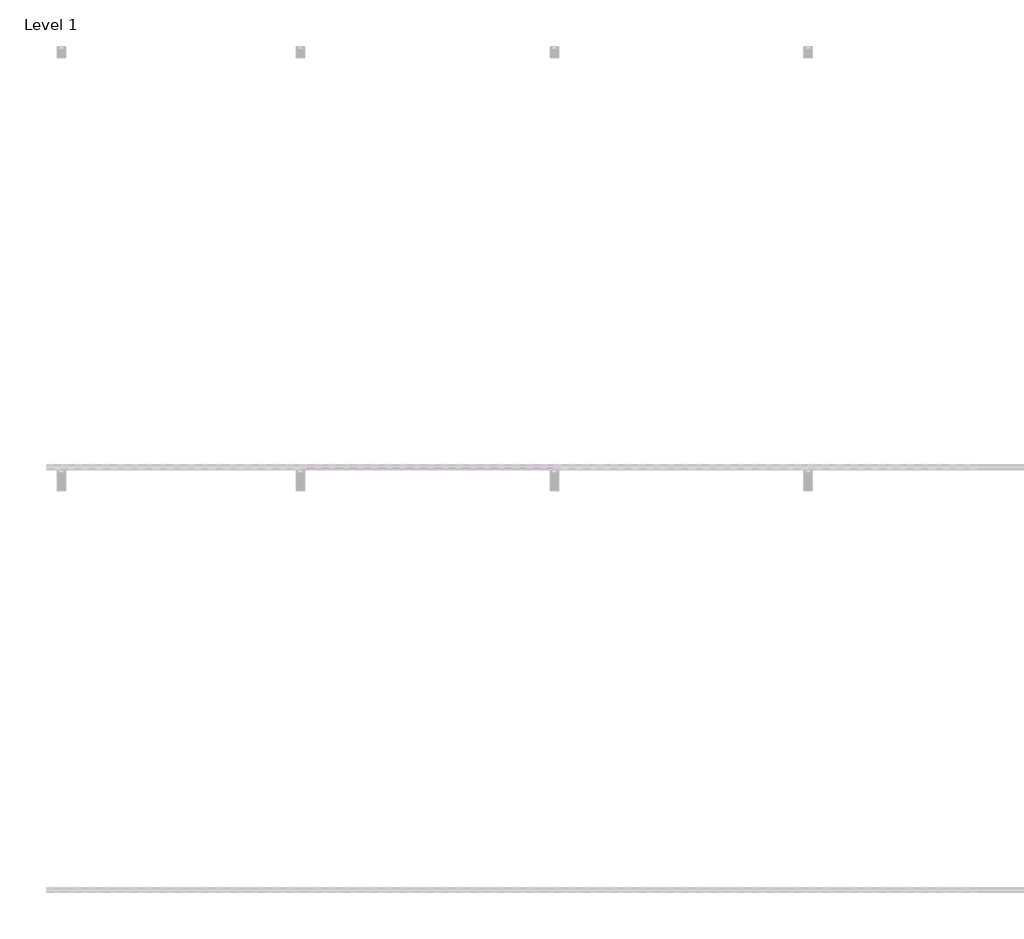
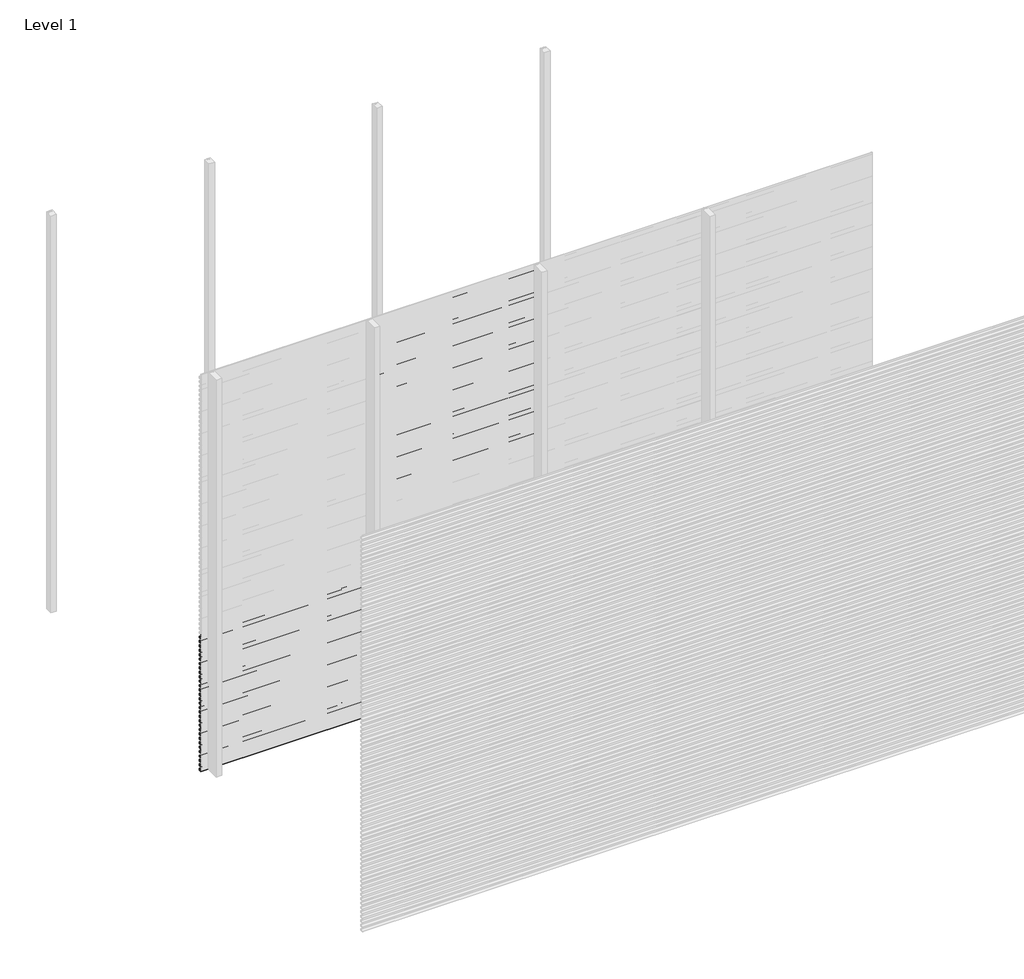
# One storey, part 28 of 77: 72 proxies.
"""IFC4 building model written with IfcOpenShell, lengths in millimetres."""

from ifc_helpers import new_model, si_unit, frame, origin, place, context, project, spatial, polyline, outline, extrude, element, save

model = new_model("IFC4")

# Units and contexts
model_context = context("Model", 3, world=origin())
ifc_project = project(units=[si_unit("LENGTHUNIT", "METRE", prefix="MILLI")], contexts=[model_context])

# Site, building, storey
site = spatial("IfcSite", under=ifc_project)
building = spatial("IfcBuilding", under=site)
storey = spatial("IfcBuildingStorey", under=building, Name="Level 1", Elevation=0.0)

# Proxies
placement = place(None, origin())
element("IfcBuildingElementProxy", 1, Name="Wall Sweeps", at=placement, inside=storey, context=model_context, shape_type="SweptSolid", body=[
    extrude(outline(polyline([(-35978.6, 1007.8359887), (-35998.0, 1019.0366691), (-35998.0, 1032.3), (-35997.0, 1032.3), (-35997.0, 1019.6191057), (-35977.6, 1008.4185105), (-35977.6, 994.8185105), (-35978.6, 996.3953129), (-35978.6, 1002.2032062), (-35995.9773817, 994.1), (-35996.4, 995.0063078), (-35978.6, 1003.3065841), (-35978.6, 1007.8359887)])), frame((0.0, 0.0, 0.0), z_axis=(1.0, 0.0, 0.0), x_axis=(0.0, 1.0, 0.0)), (0.0, 0.0, 1.0), 1200.0),
])
element("IfcBuildingElementProxy", 2, Name="Wall Sweeps", at=placement, inside=storey, context=model_context, shape_type="SweptSolid", body=[
    extrude(outline(polyline([(-35978.6, 974.5359887), (-35998.0, 985.7366691), (-35998.0, 999.0), (-35997.0, 999.0), (-35997.0, 986.3191057), (-35977.6, 975.1185105), (-35977.6, 961.5185105), (-35978.6, 963.0953129), (-35978.6, 968.9032062), (-35995.9773817, 960.8), (-35996.4, 961.7063078), (-35978.6, 970.0065841), (-35978.6, 974.5359887)])), frame((0.0, 0.0, 0.0), z_axis=(1.0, 0.0, 0.0), x_axis=(0.0, 1.0, 0.0)), (0.0, 0.0, 1.0), 1200.0),
])
element("IfcBuildingElementProxy", 3, Name="Wall Sweeps", at=placement, inside=storey, context=model_context, shape_type="SweptSolid", body=[
    extrude(outline(polyline([(-35978.6, 941.2359887), (-35998.0, 952.4366691), (-35998.0, 965.7), (-35997.0, 965.7), (-35997.0, 953.0191057), (-35977.6, 941.8185105), (-35977.6, 928.2185105), (-35978.6, 929.7953129), (-35978.6, 935.6032062), (-35995.9773817, 927.5), (-35996.4, 928.4063078), (-35978.6, 936.7065841), (-35978.6, 941.2359887)])), frame((0.0, 0.0, 0.0), z_axis=(1.0, 0.0, 0.0), x_axis=(0.0, 1.0, 0.0)), (0.0, 0.0, 1.0), 1200.0),
])
element("IfcBuildingElementProxy", 4, Name="Wall Sweeps", at=placement, inside=storey, context=model_context, shape_type="SweptSolid", body=[
    extrude(outline(polyline([(-35978.6, 907.9359887), (-35998.0, 919.1366691), (-35998.0, 932.4), (-35997.0, 932.4), (-35997.0, 919.7191057), (-35977.6, 908.5185105), (-35977.6, 894.9185105), (-35978.6, 896.4953129), (-35978.6, 902.3032062), (-35995.9773817, 894.2), (-35996.4, 895.1063078), (-35978.6, 903.4065841), (-35978.6, 907.9359887)])), frame((0.0, 0.0, 0.0), z_axis=(1.0, 0.0, 0.0), x_axis=(0.0, 1.0, 0.0)), (0.0, 0.0, 1.0), 1200.0),
])
element("IfcBuildingElementProxy", 5, Name="Wall Sweeps", at=placement, inside=storey, context=model_context, shape_type="SweptSolid", body=[
    extrude(outline(polyline([(-35978.6, 874.6359887), (-35998.0, 885.8366691), (-35998.0, 899.1), (-35997.0, 899.1), (-35997.0, 886.4191057), (-35977.6, 875.2185105), (-35977.6, 861.6185105), (-35978.6, 863.1953129), (-35978.6, 869.0032062), (-35995.9773817, 860.9), (-35996.4, 861.8063078), (-35978.6, 870.1065841), (-35978.6, 874.6359887)])), frame((0.0, 0.0, 0.0), z_axis=(1.0, 0.0, 0.0), x_axis=(0.0, 1.0, 0.0)), (0.0, 0.0, 1.0), 1200.0),
])
element("IfcBuildingElementProxy", 6, Name="Wall Sweeps", at=placement, inside=storey, context=model_context, shape_type="SweptSolid", body=[
    extrude(outline(polyline([(-35978.6, 841.3359887), (-35998.0, 852.5366691), (-35998.0, 865.8), (-35997.0, 865.8), (-35997.0, 853.1191057), (-35977.6, 841.9185105), (-35977.6, 828.3185105), (-35978.6, 829.8953129), (-35978.6, 835.7032062), (-35995.9773817, 827.6), (-35996.4, 828.5063078), (-35978.6, 836.8065841), (-35978.6, 841.3359887)])), frame((0.0, 0.0, 0.0), z_axis=(1.0, 0.0, 0.0), x_axis=(0.0, 1.0, 0.0)), (0.0, 0.0, 1.0), 1200.0),
])
element("IfcBuildingElementProxy", 7, Name="Wall Sweeps", at=placement, inside=storey, context=model_context, shape_type="SweptSolid", body=[
    extrude(outline(polyline([(-35978.6, 808.0359887), (-35998.0, 819.2366691), (-35998.0, 832.5), (-35997.0, 832.5), (-35997.0, 819.8191057), (-35977.6, 808.6185105), (-35977.6, 795.0185105), (-35978.6, 796.5953129), (-35978.6, 802.4032062), (-35995.9773817, 794.3), (-35996.4, 795.2063078), (-35978.6, 803.5065841), (-35978.6, 808.0359887)])), frame((0.0, 0.0, 0.0), z_axis=(1.0, 0.0, 0.0), x_axis=(0.0, 1.0, 0.0)), (0.0, 0.0, 1.0), 1200.0),
])
element("IfcBuildingElementProxy", 8, Name="Wall Sweeps", at=placement, inside=storey, context=model_context, shape_type="SweptSolid", body=[
    extrude(outline(polyline([(-35978.6, 774.7359887), (-35998.0, 785.9366691), (-35998.0, 799.2), (-35997.0, 799.2), (-35997.0, 786.5191057), (-35977.6, 775.3185105), (-35977.6, 761.7185105), (-35978.6, 763.2953129), (-35978.6, 769.1032062), (-35995.9773817, 761.0), (-35996.4, 761.9063078), (-35978.6, 770.2065841), (-35978.6, 774.7359887)])), frame((0.0, 0.0, 0.0), z_axis=(1.0, 0.0, 0.0), x_axis=(0.0, 1.0, 0.0)), (0.0, 0.0, 1.0), 1200.0),
])
element("IfcBuildingElementProxy", 9, Name="Wall Sweeps", at=placement, inside=storey, context=model_context, shape_type="SweptSolid", body=[
    extrude(outline(polyline([(-35978.6, 741.4359887), (-35998.0, 752.6366691), (-35998.0, 765.9), (-35997.0, 765.9), (-35997.0, 753.2191057), (-35977.6, 742.0185105), (-35977.6, 728.4185105), (-35978.6, 729.9953129), (-35978.6, 735.8032062), (-35995.9773817, 727.7), (-35996.4, 728.6063078), (-35978.6, 736.9065841), (-35978.6, 741.4359887)])), frame((0.0, 0.0, 0.0), z_axis=(1.0, 0.0, 0.0), x_axis=(0.0, 1.0, 0.0)), (0.0, 0.0, 1.0), 1200.0),
])
element("IfcBuildingElementProxy", 10, Name="Wall Sweeps", at=placement, inside=storey, context=model_context, shape_type="SweptSolid", body=[
    extrude(outline(polyline([(-35978.6, 708.1359887), (-35998.0, 719.3366691), (-35998.0, 732.6), (-35997.0, 732.6), (-35997.0, 719.9191057), (-35977.6, 708.7185105), (-35977.6, 695.1185105), (-35978.6, 696.6953129), (-35978.6, 702.5032062), (-35995.9773817, 694.4), (-35996.4, 695.3063078), (-35978.6, 703.6065841), (-35978.6, 708.1359887)])), frame((0.0, 0.0, 0.0), z_axis=(1.0, 0.0, 0.0), x_axis=(0.0, 1.0, 0.0)), (0.0, 0.0, 1.0), 1200.0),
])
element("IfcBuildingElementProxy", 11, Name="Wall Sweeps", at=placement, inside=storey, context=model_context, shape_type="SweptSolid", body=[
    extrude(outline(polyline([(-35978.6, 674.8359887), (-35998.0, 686.0366691), (-35998.0, 699.3), (-35997.0, 699.3), (-35997.0, 686.6191057), (-35977.6, 675.4185105), (-35977.6, 661.8185105), (-35978.6, 663.3953129), (-35978.6, 669.2032062), (-35995.9773817, 661.1), (-35996.4, 662.0063078), (-35978.6, 670.3065841), (-35978.6, 674.8359887)])), frame((0.0, 0.0, 0.0), z_axis=(1.0, 0.0, 0.0), x_axis=(0.0, 1.0, 0.0)), (0.0, 0.0, 1.0), 1200.0),
])
element("IfcBuildingElementProxy", 12, Name="Wall Sweeps", at=placement, inside=storey, context=model_context, shape_type="SweptSolid", body=[
    extrude(outline(polyline([(-35978.6, 641.5359887), (-35998.0, 652.7366691), (-35998.0, 666.0), (-35997.0, 666.0), (-35997.0, 653.3191057), (-35977.6, 642.1185105), (-35977.6, 628.5185105), (-35978.6, 630.0953129), (-35978.6, 635.9032062), (-35995.9773817, 627.8), (-35996.4, 628.7063078), (-35978.6, 637.0065841), (-35978.6, 641.5359887)])), frame((0.0, 0.0, 0.0), z_axis=(1.0, 0.0, 0.0), x_axis=(0.0, 1.0, 0.0)), (0.0, 0.0, 1.0), 1200.0),
])
element("IfcBuildingElementProxy", 13, Name="Wall Sweeps", at=placement, inside=storey, context=model_context, shape_type="SweptSolid", body=[
    extrude(outline(polyline([(-35978.6, 608.2359887), (-35998.0, 619.4366691), (-35998.0, 632.7), (-35997.0, 632.7), (-35997.0, 620.0191057), (-35977.6, 608.8185105), (-35977.6, 595.2185105), (-35978.6, 596.7953129), (-35978.6, 602.6032062), (-35995.9773817, 594.5), (-35996.4, 595.4063078), (-35978.6, 603.7065841), (-35978.6, 608.2359887)])), frame((0.0, 0.0, 0.0), z_axis=(1.0, 0.0, 0.0), x_axis=(0.0, 1.0, 0.0)), (0.0, 0.0, 1.0), 1200.0),
])
element("IfcBuildingElementProxy", 14, Name="Wall Sweeps", at=placement, inside=storey, context=model_context, shape_type="SweptSolid", body=[
    extrude(outline(polyline([(-35978.6, 574.9359887), (-35998.0, 586.1366691), (-35998.0, 599.4), (-35997.0, 599.4), (-35997.0, 586.7191057), (-35977.6, 575.5185105), (-35977.6, 561.9185105), (-35978.6, 563.4953129), (-35978.6, 569.3032062), (-35995.9773817, 561.2), (-35996.4, 562.1063078), (-35978.6, 570.4065841), (-35978.6, 574.9359887)])), frame((0.0, 0.0, 0.0), z_axis=(1.0, 0.0, 0.0), x_axis=(0.0, 1.0, 0.0)), (0.0, 0.0, 1.0), 1200.0),
])
element("IfcBuildingElementProxy", 15, Name="Wall Sweeps", at=placement, inside=storey, context=model_context, shape_type="SweptSolid", body=[
    extrude(outline(polyline([(-35978.6, 541.6359887), (-35998.0, 552.8366691), (-35998.0, 566.1), (-35997.0, 566.1), (-35997.0, 553.4191057), (-35977.6, 542.2185105), (-35977.6, 528.6185105), (-35978.6, 530.1953129), (-35978.6, 536.0032062), (-35995.9773817, 527.9), (-35996.4, 528.8063078), (-35978.6, 537.1065841), (-35978.6, 541.6359887)])), frame((0.0, 0.0, 0.0), z_axis=(1.0, 0.0, 0.0), x_axis=(0.0, 1.0, 0.0)), (0.0, 0.0, 1.0), 1200.0),
])
element("IfcBuildingElementProxy", 16, Name="Wall Sweeps", at=placement, inside=storey, context=model_context, shape_type="SweptSolid", body=[
    extrude(outline(polyline([(-35978.6, 508.3359887), (-35998.0, 519.5366691), (-35998.0, 532.8), (-35997.0, 532.8), (-35997.0, 520.1191057), (-35977.6, 508.9185105), (-35977.6, 495.3185105), (-35978.6, 496.8953129), (-35978.6, 502.7032062), (-35995.9773817, 494.6), (-35996.4, 495.5063078), (-35978.6, 503.8065841), (-35978.6, 508.3359887)])), frame((0.0, 0.0, 0.0), z_axis=(1.0, 0.0, 0.0), x_axis=(0.0, 1.0, 0.0)), (0.0, 0.0, 1.0), 1200.0),
])
element("IfcBuildingElementProxy", 17, Name="Wall Sweeps", at=placement, inside=storey, context=model_context, shape_type="SweptSolid", body=[
    extrude(outline(polyline([(-35978.6, 475.0359887), (-35998.0, 486.2366691), (-35998.0, 499.5), (-35997.0, 499.5), (-35997.0, 486.8191057), (-35977.6, 475.6185105), (-35977.6, 462.0185105), (-35978.6, 463.5953129), (-35978.6, 469.4032062), (-35995.9773817, 461.3), (-35996.4, 462.2063078), (-35978.6, 470.5065841), (-35978.6, 475.0359887)])), frame((0.0, 0.0, 0.0), z_axis=(1.0, 0.0, 0.0), x_axis=(0.0, 1.0, 0.0)), (0.0, 0.0, 1.0), 1200.0),
])
element("IfcBuildingElementProxy", 18, Name="Wall Sweeps", at=placement, inside=storey, context=model_context, shape_type="SweptSolid", body=[
    extrude(outline(polyline([(-35978.6, 441.7359887), (-35998.0, 452.9366691), (-35998.0, 466.2), (-35997.0, 466.2), (-35997.0, 453.5191057), (-35977.6, 442.3185105), (-35977.6, 428.7185105), (-35978.6, 430.2953129), (-35978.6, 436.1032062), (-35995.9773817, 428.0), (-35996.4, 428.9063078), (-35978.6, 437.2065841), (-35978.6, 441.7359887)])), frame((0.0, 0.0, 0.0), z_axis=(1.0, 0.0, 0.0), x_axis=(0.0, 1.0, 0.0)), (0.0, 0.0, 1.0), 1200.0),
])
element("IfcBuildingElementProxy", 19, Name="Wall Sweeps", at=placement, inside=storey, context=model_context, shape_type="SweptSolid", body=[
    extrude(outline(polyline([(-35978.6, 408.4359887), (-35998.0, 419.6366691), (-35998.0, 432.9), (-35997.0, 432.9), (-35997.0, 420.2191057), (-35977.6, 409.0185105), (-35977.6, 395.4185105), (-35978.6, 396.9953129), (-35978.6, 402.8032062), (-35995.9773817, 394.7), (-35996.4, 395.6063078), (-35978.6, 403.9065841), (-35978.6, 408.4359887)])), frame((0.0, 0.0, 0.0), z_axis=(1.0, 0.0, 0.0), x_axis=(0.0, 1.0, 0.0)), (0.0, 0.0, 1.0), 1200.0),
])
element("IfcBuildingElementProxy", 20, Name="Wall Sweeps", at=placement, inside=storey, context=model_context, shape_type="SweptSolid", body=[
    extrude(outline(polyline([(-35978.6, 375.1359887), (-35998.0, 386.3366691), (-35998.0, 399.6), (-35997.0, 399.6), (-35997.0, 386.9191057), (-35977.6, 375.7185105), (-35977.6, 362.1185105), (-35978.6, 363.6953129), (-35978.6, 369.5032062), (-35995.9773817, 361.4), (-35996.4, 362.3063078), (-35978.6, 370.6065841), (-35978.6, 375.1359887)])), frame((0.0, 0.0, 0.0), z_axis=(1.0, 0.0, 0.0), x_axis=(0.0, 1.0, 0.0)), (0.0, 0.0, 1.0), 1200.0),
])
element("IfcBuildingElementProxy", 21, Name="Wall Sweeps", at=placement, inside=storey, context=model_context, shape_type="SweptSolid", body=[
    extrude(outline(polyline([(-35978.6, 341.8359887), (-35998.0, 353.0366691), (-35998.0, 366.3), (-35997.0, 366.3), (-35997.0, 353.6191057), (-35977.6, 342.4185105), (-35977.6, 328.8185105), (-35978.6, 330.3953129), (-35978.6, 336.2032062), (-35995.9773817, 328.1), (-35996.4, 329.0063078), (-35978.6, 337.3065841), (-35978.6, 341.8359887)])), frame((0.0, 0.0, 0.0), z_axis=(1.0, 0.0, 0.0), x_axis=(0.0, 1.0, 0.0)), (0.0, 0.0, 1.0), 1200.0),
])
element("IfcBuildingElementProxy", 22, Name="Wall Sweeps", at=placement, inside=storey, context=model_context, shape_type="SweptSolid", body=[
    extrude(outline(polyline([(-35978.6, 308.5359887), (-35998.0, 319.7366691), (-35998.0, 333.0), (-35997.0, 333.0), (-35997.0, 320.3191057), (-35977.6, 309.1185105), (-35977.6, 295.5185105), (-35978.6, 297.0953129), (-35978.6, 302.9032062), (-35995.9773817, 294.8), (-35996.4, 295.7063078), (-35978.6, 304.0065841), (-35978.6, 308.5359887)])), frame((0.0, 0.0, 0.0), z_axis=(1.0, 0.0, 0.0), x_axis=(0.0, 1.0, 0.0)), (0.0, 0.0, 1.0), 1200.0),
])
element("IfcBuildingElementProxy", 23, Name="Wall Sweeps", at=placement, inside=storey, context=model_context, shape_type="SweptSolid", body=[
    extrude(outline(polyline([(-35978.6, 275.2359887), (-35998.0, 286.4366691), (-35998.0, 299.7), (-35997.0, 299.7), (-35997.0, 287.0191057), (-35977.6, 275.8185105), (-35977.6, 262.2185105), (-35978.6, 263.7953129), (-35978.6, 269.6032062), (-35995.9773817, 261.5), (-35996.4, 262.4063078), (-35978.6, 270.7065841), (-35978.6, 275.2359887)])), frame((0.0, 0.0, 0.0), z_axis=(1.0, 0.0, 0.0), x_axis=(0.0, 1.0, 0.0)), (0.0, 0.0, 1.0), 1200.0),
])
element("IfcBuildingElementProxy", 24, Name="Wall Sweeps", at=placement, inside=storey, context=model_context, shape_type="SweptSolid", body=[
    extrude(outline(polyline([(-35978.6, 241.9359887), (-35998.0, 253.1366691), (-35998.0, 266.4), (-35997.0, 266.4), (-35997.0, 253.7191057), (-35977.6, 242.5185105), (-35977.6, 228.9185105), (-35978.6, 230.4953129), (-35978.6, 236.3032062), (-35995.9773817, 228.2), (-35996.4, 229.1063078), (-35978.6, 237.4065841), (-35978.6, 241.9359887)])), frame((0.0, 0.0, 0.0), z_axis=(1.0, 0.0, 0.0), x_axis=(0.0, 1.0, 0.0)), (0.0, 0.0, 1.0), 1200.0),
])
element("IfcBuildingElementProxy", 25, Name="Wall Sweeps", at=placement, inside=storey, context=model_context, shape_type="SweptSolid", body=[
    extrude(outline(polyline([(-35978.6, 208.6359887), (-35998.0, 219.8366691), (-35998.0, 233.1), (-35997.0, 233.1), (-35997.0, 220.4191057), (-35977.6, 209.2185105), (-35977.6, 195.6185105), (-35978.6, 197.1953129), (-35978.6, 203.0032062), (-35995.9773817, 194.9), (-35996.4, 195.8063078), (-35978.6, 204.1065841), (-35978.6, 208.6359887)])), frame((0.0, 0.0, 0.0), z_axis=(1.0, 0.0, 0.0), x_axis=(0.0, 1.0, 0.0)), (0.0, 0.0, 1.0), 1200.0),
])
element("IfcBuildingElementProxy", 26, Name="Wall Sweeps", at=placement, inside=storey, context=model_context, shape_type="SweptSolid", body=[
    extrude(outline(polyline([(-35978.6, 175.3359887), (-35998.0, 186.5366691), (-35998.0, 199.8), (-35997.0, 199.8), (-35997.0, 187.1191057), (-35977.6, 175.9185105), (-35977.6, 162.3185105), (-35978.6, 163.8953129), (-35978.6, 169.7032062), (-35995.9773817, 161.6), (-35996.4, 162.5063078), (-35978.6, 170.8065841), (-35978.6, 175.3359887)])), frame((0.0, 0.0, 0.0), z_axis=(1.0, 0.0, 0.0), x_axis=(0.0, 1.0, 0.0)), (0.0, 0.0, 1.0), 1200.0),
])
element("IfcBuildingElementProxy", 27, Name="Wall Sweeps", at=placement, inside=storey, context=model_context, shape_type="SweptSolid", body=[
    extrude(outline(polyline([(-35978.6, 142.0359887), (-35998.0, 153.2366691), (-35998.0, 166.5), (-35997.0, 166.5), (-35997.0, 153.8191057), (-35977.6, 142.6185105), (-35977.6, 129.0185105), (-35978.6, 130.5953129), (-35978.6, 136.4032062), (-35995.9773817, 128.3), (-35996.4, 129.2063078), (-35978.6, 137.5065841), (-35978.6, 142.0359887)])), frame((0.0, 0.0, 0.0), z_axis=(1.0, 0.0, 0.0), x_axis=(0.0, 1.0, 0.0)), (0.0, 0.0, 1.0), 1200.0),
])
element("IfcBuildingElementProxy", 28, Name="Wall Sweeps", at=placement, inside=storey, context=model_context, shape_type="SweptSolid", body=[
    extrude(outline(polyline([(-35978.6, 108.7359887), (-35998.0, 119.9366691), (-35998.0, 133.2), (-35997.0, 133.2), (-35997.0, 120.5191057), (-35977.6, 109.3185105), (-35977.6, 95.7185105), (-35978.6, 97.2953129), (-35978.6, 103.1032062), (-35995.9773817, 95.0), (-35996.4, 95.9063078), (-35978.6, 104.2065841), (-35978.6, 108.7359887)])), frame((0.0, 0.0, 0.0), z_axis=(1.0, 0.0, 0.0), x_axis=(0.0, 1.0, 0.0)), (0.0, 0.0, 1.0), 1200.0),
])
element("IfcBuildingElementProxy", 29, Name="Wall Sweeps", at=placement, inside=storey, context=model_context, shape_type="SweptSolid", body=[
    extrude(outline(polyline([(-35978.6, 75.4359887), (-35998.0, 86.6366691), (-35998.0, 99.9), (-35997.0, 99.9), (-35997.0, 87.2191057), (-35977.6, 76.0185105), (-35977.6, 62.4185105), (-35978.6, 63.9953129), (-35978.6, 69.8032062), (-35995.9773817, 61.7), (-35996.4, 62.6063078), (-35978.6, 70.9065841), (-35978.6, 75.4359887)])), frame((0.0, 0.0, 0.0), z_axis=(1.0, 0.0, 0.0), x_axis=(0.0, 1.0, 0.0)), (0.0, 0.0, 1.0), 1200.0),
])
element("IfcBuildingElementProxy", 30, Name="Wall Sweeps", at=placement, inside=storey, context=model_context, shape_type="SweptSolid", body=[
    extrude(outline(polyline([(-35978.6, 42.1359887), (-35998.0, 53.3366691), (-35998.0, 66.6), (-35997.0, 66.6), (-35997.0, 53.9191057), (-35977.6, 42.7185105), (-35977.6, 29.1185105), (-35978.6, 30.6953129), (-35978.6, 36.5032062), (-35995.9773817, 28.4), (-35996.4, 29.3063078), (-35978.6, 37.6065841), (-35978.6, 42.1359887)])), frame((0.0, 0.0, 0.0), z_axis=(1.0, 0.0, 0.0), x_axis=(0.0, 1.0, 0.0)), (0.0, 0.0, 1.0), 1200.0),
])
element("IfcBuildingElementProxy", 31, Name="Wall Sweeps", at=placement, inside=storey, context=model_context, shape_type="SweptSolid", body=[
    extrude(outline(polyline([(-35978.6, 8.8359887), (-35998.0, 20.0366691), (-35998.0, 33.3), (-35997.0, 33.3), (-35997.0, 20.6191057), (-35977.6, 9.4185105), (-35977.6, -4.1814895), (-35978.6, -2.6046871), (-35978.6, 3.2032062), (-35995.9773817, -4.9), (-35996.4, -3.9936922), (-35978.6, 4.3065841), (-35978.6, 8.8359887)])), frame((0.0, 0.0, 0.0), z_axis=(1.0, 0.0, 0.0), x_axis=(0.0, 1.0, 0.0)), (0.0, 0.0, 1.0), 1200.0),
])
element("IfcBuildingElementProxy", 32, Name="Wall Sweeps", at=placement, inside=storey, context=model_context, shape_type="SweptSolid", body=[
    extrude(outline(polyline([(-35978.6, 2972.5359887), (-35998.0, 2983.7366691), (-35998.0, 2997.0), (-35997.0, 2997.0), (-35997.0, 2984.3191057), (-35977.6, 2973.1185105), (-35977.6, 2959.5185105), (-35978.6, 2961.0953129), (-35978.6, 2966.9032062), (-35995.9773817, 2958.8), (-35996.4, 2959.7063078), (-35978.6, 2968.0065841), (-35978.6, 2972.5359887)])), frame((1200.0, 0.0, 0.0), z_axis=(1.0, 0.0, 0.0), x_axis=(0.0, 1.0, 0.0)), (0.0, 0.0, 1.0), 1200.0),
])
element("IfcBuildingElementProxy", 33, Name="Wall Sweeps", at=placement, inside=storey, context=model_context, shape_type="SweptSolid", body=[
    extrude(outline(polyline([(-35978.6, 2939.2359887), (-35998.0, 2950.4366691), (-35998.0, 2963.7), (-35997.0, 2963.7), (-35997.0, 2951.0191057), (-35977.6, 2939.8185105), (-35977.6, 2926.2185105), (-35978.6, 2927.7953129), (-35978.6, 2933.6032062), (-35995.9773817, 2925.5), (-35996.4, 2926.4063078), (-35978.6, 2934.7065841), (-35978.6, 2939.2359887)])), frame((1200.0, 0.0, 0.0), z_axis=(1.0, 0.0, 0.0), x_axis=(0.0, 1.0, 0.0)), (0.0, 0.0, 1.0), 1200.0),
])
element("IfcBuildingElementProxy", 34, Name="Wall Sweeps", at=placement, inside=storey, context=model_context, shape_type="SweptSolid", body=[
    extrude(outline(polyline([(-35978.6, 2905.9359887), (-35998.0, 2917.1366691), (-35998.0, 2930.4), (-35997.0, 2930.4), (-35997.0, 2917.7191057), (-35977.6, 2906.5185105), (-35977.6, 2892.9185105), (-35978.6, 2894.4953129), (-35978.6, 2900.3032062), (-35995.9773817, 2892.2), (-35996.4, 2893.1063078), (-35978.6, 2901.4065841), (-35978.6, 2905.9359887)])), frame((1200.0, 0.0, 0.0), z_axis=(1.0, 0.0, 0.0), x_axis=(0.0, 1.0, 0.0)), (0.0, 0.0, 1.0), 1200.0),
])
element("IfcBuildingElementProxy", 35, Name="Wall Sweeps", at=placement, inside=storey, context=model_context, shape_type="SweptSolid", body=[
    extrude(outline(polyline([(-35978.6, 2872.6359887), (-35998.0, 2883.8366691), (-35998.0, 2897.1), (-35997.0, 2897.1), (-35997.0, 2884.4191057), (-35977.6, 2873.2185105), (-35977.6, 2859.6185105), (-35978.6, 2861.1953129), (-35978.6, 2867.0032062), (-35995.9773817, 2858.9), (-35996.4, 2859.8063078), (-35978.6, 2868.1065841), (-35978.6, 2872.6359887)])), frame((1200.0, 0.0, 0.0), z_axis=(1.0, 0.0, 0.0), x_axis=(0.0, 1.0, 0.0)), (0.0, 0.0, 1.0), 1200.0),
])
element("IfcBuildingElementProxy", 36, Name="Wall Sweeps", at=placement, inside=storey, context=model_context, shape_type="SweptSolid", body=[
    extrude(outline(polyline([(-35978.6, 2839.3359887), (-35998.0, 2850.5366691), (-35998.0, 2863.8), (-35997.0, 2863.8), (-35997.0, 2851.1191057), (-35977.6, 2839.9185105), (-35977.6, 2826.3185105), (-35978.6, 2827.8953129), (-35978.6, 2833.7032062), (-35995.9773817, 2825.6), (-35996.4, 2826.5063078), (-35978.6, 2834.8065841), (-35978.6, 2839.3359887)])), frame((1200.0, 0.0, 0.0), z_axis=(1.0, 0.0, 0.0), x_axis=(0.0, 1.0, 0.0)), (0.0, 0.0, 1.0), 1200.0),
])
element("IfcBuildingElementProxy", 37, Name="Wall Sweeps", at=placement, inside=storey, context=model_context, shape_type="SweptSolid", body=[
    extrude(outline(polyline([(-35978.6, 2806.0359887), (-35998.0, 2817.2366691), (-35998.0, 2830.5), (-35997.0, 2830.5), (-35997.0, 2817.8191057), (-35977.6, 2806.6185105), (-35977.6, 2793.0185105), (-35978.6, 2794.5953129), (-35978.6, 2800.4032062), (-35995.9773817, 2792.3), (-35996.4, 2793.2063078), (-35978.6, 2801.5065841), (-35978.6, 2806.0359887)])), frame((1200.0, 0.0, 0.0), z_axis=(1.0, 0.0, 0.0), x_axis=(0.0, 1.0, 0.0)), (0.0, 0.0, 1.0), 1200.0),
])
element("IfcBuildingElementProxy", 38, Name="Wall Sweeps", at=placement, inside=storey, context=model_context, shape_type="SweptSolid", body=[
    extrude(outline(polyline([(-35978.6, 2772.7359887), (-35998.0, 2783.9366691), (-35998.0, 2797.2), (-35997.0, 2797.2), (-35997.0, 2784.5191057), (-35977.6, 2773.3185105), (-35977.6, 2759.7185105), (-35978.6, 2761.2953129), (-35978.6, 2767.1032062), (-35995.9773817, 2759.0), (-35996.4, 2759.9063078), (-35978.6, 2768.2065841), (-35978.6, 2772.7359887)])), frame((1200.0, 0.0, 0.0), z_axis=(1.0, 0.0, 0.0), x_axis=(0.0, 1.0, 0.0)), (0.0, 0.0, 1.0), 1200.0),
])
element("IfcBuildingElementProxy", 39, Name="Wall Sweeps", at=placement, inside=storey, context=model_context, shape_type="SweptSolid", body=[
    extrude(outline(polyline([(-35978.6, 2739.4359887), (-35998.0, 2750.6366691), (-35998.0, 2763.9), (-35997.0, 2763.9), (-35997.0, 2751.2191057), (-35977.6, 2740.0185105), (-35977.6, 2726.4185105), (-35978.6, 2727.9953129), (-35978.6, 2733.8032062), (-35995.9773817, 2725.7), (-35996.4, 2726.6063078), (-35978.6, 2734.9065841), (-35978.6, 2739.4359887)])), frame((1200.0, 0.0, 0.0), z_axis=(1.0, 0.0, 0.0), x_axis=(0.0, 1.0, 0.0)), (0.0, 0.0, 1.0), 1200.0),
])
element("IfcBuildingElementProxy", 40, Name="Wall Sweeps", at=placement, inside=storey, context=model_context, shape_type="SweptSolid", body=[
    extrude(outline(polyline([(-35978.6, 2706.1359887), (-35998.0, 2717.3366691), (-35998.0, 2730.6), (-35997.0, 2730.6), (-35997.0, 2717.9191057), (-35977.6, 2706.7185105), (-35977.6, 2693.1185105), (-35978.6, 2694.6953129), (-35978.6, 2700.5032062), (-35995.9773817, 2692.4), (-35996.4, 2693.3063078), (-35978.6, 2701.6065841), (-35978.6, 2706.1359887)])), frame((1200.0, 0.0, 0.0), z_axis=(1.0, 0.0, 0.0), x_axis=(0.0, 1.0, 0.0)), (0.0, 0.0, 1.0), 1200.0),
])
element("IfcBuildingElementProxy", 41, Name="Wall Sweeps", at=placement, inside=storey, context=model_context, shape_type="SweptSolid", body=[
    extrude(outline(polyline([(-35978.6, 2672.8359887), (-35998.0, 2684.0366691), (-35998.0, 2697.3), (-35997.0, 2697.3), (-35997.0, 2684.6191057), (-35977.6, 2673.4185105), (-35977.6, 2659.8185105), (-35978.6, 2661.3953129), (-35978.6, 2667.2032062), (-35995.9773817, 2659.1), (-35996.4, 2660.0063078), (-35978.6, 2668.3065841), (-35978.6, 2672.8359887)])), frame((1200.0, 0.0, 0.0), z_axis=(1.0, 0.0, 0.0), x_axis=(0.0, 1.0, 0.0)), (0.0, 0.0, 1.0), 1200.0),
])
element("IfcBuildingElementProxy", 42, Name="Wall Sweeps", at=placement, inside=storey, context=model_context, shape_type="SweptSolid", body=[
    extrude(outline(polyline([(-35978.6, 2639.5359887), (-35998.0, 2650.7366691), (-35998.0, 2664.0), (-35997.0, 2664.0), (-35997.0, 2651.3191057), (-35977.6, 2640.1185105), (-35977.6, 2626.5185105), (-35978.6, 2628.0953129), (-35978.6, 2633.9032062), (-35995.9773817, 2625.8), (-35996.4, 2626.7063078), (-35978.6, 2635.0065841), (-35978.6, 2639.5359887)])), frame((1200.0, 0.0, 0.0), z_axis=(1.0, 0.0, 0.0), x_axis=(0.0, 1.0, 0.0)), (0.0, 0.0, 1.0), 1200.0),
])
element("IfcBuildingElementProxy", 43, Name="Wall Sweeps", at=placement, inside=storey, context=model_context, shape_type="SweptSolid", body=[
    extrude(outline(polyline([(-35978.6, 2606.2359887), (-35998.0, 2617.4366691), (-35998.0, 2630.7), (-35997.0, 2630.7), (-35997.0, 2618.0191057), (-35977.6, 2606.8185105), (-35977.6, 2593.2185105), (-35978.6, 2594.7953129), (-35978.6, 2600.6032062), (-35995.9773817, 2592.5), (-35996.4, 2593.4063078), (-35978.6, 2601.7065841), (-35978.6, 2606.2359887)])), frame((1200.0, 0.0, 0.0), z_axis=(1.0, 0.0, 0.0), x_axis=(0.0, 1.0, 0.0)), (0.0, 0.0, 1.0), 1200.0),
])
element("IfcBuildingElementProxy", 44, Name="Wall Sweeps", at=placement, inside=storey, context=model_context, shape_type="SweptSolid", body=[
    extrude(outline(polyline([(-35978.6, 2572.9359887), (-35998.0, 2584.1366691), (-35998.0, 2597.4), (-35997.0, 2597.4), (-35997.0, 2584.7191057), (-35977.6, 2573.5185105), (-35977.6, 2559.9185105), (-35978.6, 2561.4953129), (-35978.6, 2567.3032062), (-35995.9773817, 2559.2), (-35996.4, 2560.1063078), (-35978.6, 2568.4065841), (-35978.6, 2572.9359887)])), frame((1200.0, 0.0, 0.0), z_axis=(1.0, 0.0, 0.0), x_axis=(0.0, 1.0, 0.0)), (0.0, 0.0, 1.0), 1200.0),
])
element("IfcBuildingElementProxy", 45, Name="Wall Sweeps", at=placement, inside=storey, context=model_context, shape_type="SweptSolid", body=[
    extrude(outline(polyline([(-35978.6, 2539.6359887), (-35998.0, 2550.8366691), (-35998.0, 2564.1), (-35997.0, 2564.1), (-35997.0, 2551.4191057), (-35977.6, 2540.2185105), (-35977.6, 2526.6185105), (-35978.6, 2528.1953129), (-35978.6, 2534.0032062), (-35995.9773817, 2525.9), (-35996.4, 2526.8063078), (-35978.6, 2535.1065841), (-35978.6, 2539.6359887)])), frame((1200.0, 0.0, 0.0), z_axis=(1.0, 0.0, 0.0), x_axis=(0.0, 1.0, 0.0)), (0.0, 0.0, 1.0), 1200.0),
])
element("IfcBuildingElementProxy", 46, Name="Wall Sweeps", at=placement, inside=storey, context=model_context, shape_type="SweptSolid", body=[
    extrude(outline(polyline([(-35978.6, 2506.3359887), (-35998.0, 2517.5366691), (-35998.0, 2530.8), (-35997.0, 2530.8), (-35997.0, 2518.1191057), (-35977.6, 2506.9185105), (-35977.6, 2493.3185105), (-35978.6, 2494.8953129), (-35978.6, 2500.7032062), (-35995.9773817, 2492.6), (-35996.4, 2493.5063078), (-35978.6, 2501.8065841), (-35978.6, 2506.3359887)])), frame((1200.0, 0.0, 0.0), z_axis=(1.0, 0.0, 0.0), x_axis=(0.0, 1.0, 0.0)), (0.0, 0.0, 1.0), 1200.0),
])
element("IfcBuildingElementProxy", 47, Name="Wall Sweeps", at=placement, inside=storey, context=model_context, shape_type="SweptSolid", body=[
    extrude(outline(polyline([(-35978.6, 2473.0359887), (-35998.0, 2484.2366691), (-35998.0, 2497.5), (-35997.0, 2497.5), (-35997.0, 2484.8191057), (-35977.6, 2473.6185105), (-35977.6, 2460.0185105), (-35978.6, 2461.5953129), (-35978.6, 2467.4032062), (-35995.9773817, 2459.3), (-35996.4, 2460.2063078), (-35978.6, 2468.5065841), (-35978.6, 2473.0359887)])), frame((1200.0, 0.0, 0.0), z_axis=(1.0, 0.0, 0.0), x_axis=(0.0, 1.0, 0.0)), (0.0, 0.0, 1.0), 1200.0),
])
element("IfcBuildingElementProxy", 48, Name="Wall Sweeps", at=placement, inside=storey, context=model_context, shape_type="SweptSolid", body=[
    extrude(outline(polyline([(-35978.6, 2439.7359887), (-35998.0, 2450.9366691), (-35998.0, 2464.2), (-35997.0, 2464.2), (-35997.0, 2451.5191057), (-35977.6, 2440.3185105), (-35977.6, 2426.7185105), (-35978.6, 2428.2953129), (-35978.6, 2434.1032062), (-35995.9773817, 2426.0), (-35996.4, 2426.9063078), (-35978.6, 2435.2065841), (-35978.6, 2439.7359887)])), frame((1200.0, 0.0, 0.0), z_axis=(1.0, 0.0, 0.0), x_axis=(0.0, 1.0, 0.0)), (0.0, 0.0, 1.0), 1200.0),
])
element("IfcBuildingElementProxy", 49, Name="Wall Sweeps", at=placement, inside=storey, context=model_context, shape_type="SweptSolid", body=[
    extrude(outline(polyline([(-35978.6, 2406.4359887), (-35998.0, 2417.6366691), (-35998.0, 2430.9), (-35997.0, 2430.9), (-35997.0, 2418.2191057), (-35977.6, 2407.0185105), (-35977.6, 2393.4185105), (-35978.6, 2394.9953129), (-35978.6, 2400.8032062), (-35995.9773817, 2392.7), (-35996.4, 2393.6063078), (-35978.6, 2401.9065841), (-35978.6, 2406.4359887)])), frame((1200.0, 0.0, 0.0), z_axis=(1.0, 0.0, 0.0), x_axis=(0.0, 1.0, 0.0)), (0.0, 0.0, 1.0), 1200.0),
])
element("IfcBuildingElementProxy", 50, Name="Wall Sweeps", at=placement, inside=storey, context=model_context, shape_type="SweptSolid", body=[
    extrude(outline(polyline([(-35978.6, 2373.1359887), (-35998.0, 2384.3366691), (-35998.0, 2397.6), (-35997.0, 2397.6), (-35997.0, 2384.9191057), (-35977.6, 2373.7185105), (-35977.6, 2360.1185105), (-35978.6, 2361.6953129), (-35978.6, 2367.5032062), (-35995.9773817, 2359.4), (-35996.4, 2360.3063078), (-35978.6, 2368.6065841), (-35978.6, 2373.1359887)])), frame((1200.0, 0.0, 0.0), z_axis=(1.0, 0.0, 0.0), x_axis=(0.0, 1.0, 0.0)), (0.0, 0.0, 1.0), 1200.0),
])
element("IfcBuildingElementProxy", 51, Name="Wall Sweeps", at=placement, inside=storey, context=model_context, shape_type="SweptSolid", body=[
    extrude(outline(polyline([(-35978.6, 2339.8359887), (-35998.0, 2351.0366691), (-35998.0, 2364.3), (-35997.0, 2364.3), (-35997.0, 2351.6191057), (-35977.6, 2340.4185105), (-35977.6, 2326.8185105), (-35978.6, 2328.3953129), (-35978.6, 2334.2032062), (-35995.9773817, 2326.1), (-35996.4, 2327.0063078), (-35978.6, 2335.3065841), (-35978.6, 2339.8359887)])), frame((1200.0, 0.0, 0.0), z_axis=(1.0, 0.0, 0.0), x_axis=(0.0, 1.0, 0.0)), (0.0, 0.0, 1.0), 1200.0),
])
element("IfcBuildingElementProxy", 52, Name="Wall Sweeps", at=placement, inside=storey, context=model_context, shape_type="SweptSolid", body=[
    extrude(outline(polyline([(-35978.6, 2306.5359887), (-35998.0, 2317.7366691), (-35998.0, 2331.0), (-35997.0, 2331.0), (-35997.0, 2318.3191057), (-35977.6, 2307.1185105), (-35977.6, 2293.5185105), (-35978.6, 2295.0953129), (-35978.6, 2300.9032062), (-35995.9773817, 2292.8), (-35996.4, 2293.7063078), (-35978.6, 2302.0065841), (-35978.6, 2306.5359887)])), frame((1200.0, 0.0, 0.0), z_axis=(1.0, 0.0, 0.0), x_axis=(0.0, 1.0, 0.0)), (0.0, 0.0, 1.0), 1200.0),
])
element("IfcBuildingElementProxy", 53, Name="Wall Sweeps", at=placement, inside=storey, context=model_context, shape_type="SweptSolid", body=[
    extrude(outline(polyline([(-35978.6, 2273.2359887), (-35998.0, 2284.4366691), (-35998.0, 2297.7), (-35997.0, 2297.7), (-35997.0, 2285.0191057), (-35977.6, 2273.8185105), (-35977.6, 2260.2185105), (-35978.6, 2261.7953129), (-35978.6, 2267.6032062), (-35995.9773817, 2259.5), (-35996.4, 2260.4063078), (-35978.6, 2268.7065841), (-35978.6, 2273.2359887)])), frame((1200.0, 0.0, 0.0), z_axis=(1.0, 0.0, 0.0), x_axis=(0.0, 1.0, 0.0)), (0.0, 0.0, 1.0), 1200.0),
])
element("IfcBuildingElementProxy", 54, Name="Wall Sweeps", at=placement, inside=storey, context=model_context, shape_type="SweptSolid", body=[
    extrude(outline(polyline([(-35978.6, 2239.9359887), (-35998.0, 2251.1366691), (-35998.0, 2264.4), (-35997.0, 2264.4), (-35997.0, 2251.7191057), (-35977.6, 2240.5185105), (-35977.6, 2226.9185105), (-35978.6, 2228.4953129), (-35978.6, 2234.3032062), (-35995.9773817, 2226.2), (-35996.4, 2227.1063078), (-35978.6, 2235.4065841), (-35978.6, 2239.9359887)])), frame((1200.0, 0.0, 0.0), z_axis=(1.0, 0.0, 0.0), x_axis=(0.0, 1.0, 0.0)), (0.0, 0.0, 1.0), 1200.0),
])
element("IfcBuildingElementProxy", 55, Name="Wall Sweeps", at=placement, inside=storey, context=model_context, shape_type="SweptSolid", body=[
    extrude(outline(polyline([(-35978.6, 2206.6359887), (-35998.0, 2217.8366691), (-35998.0, 2231.1), (-35997.0, 2231.1), (-35997.0, 2218.4191057), (-35977.6, 2207.2185105), (-35977.6, 2193.6185105), (-35978.6, 2195.1953129), (-35978.6, 2201.0032062), (-35995.9773817, 2192.9), (-35996.4, 2193.8063078), (-35978.6, 2202.1065841), (-35978.6, 2206.6359887)])), frame((1200.0, 0.0, 0.0), z_axis=(1.0, 0.0, 0.0), x_axis=(0.0, 1.0, 0.0)), (0.0, 0.0, 1.0), 1200.0),
])
element("IfcBuildingElementProxy", 56, Name="Wall Sweeps", at=placement, inside=storey, context=model_context, shape_type="SweptSolid", body=[
    extrude(outline(polyline([(-35978.6, 2173.3359887), (-35998.0, 2184.5366691), (-35998.0, 2197.8), (-35997.0, 2197.8), (-35997.0, 2185.1191057), (-35977.6, 2173.9185105), (-35977.6, 2160.3185105), (-35978.6, 2161.8953129), (-35978.6, 2167.7032062), (-35995.9773817, 2159.6), (-35996.4, 2160.5063078), (-35978.6, 2168.8065841), (-35978.6, 2173.3359887)])), frame((1200.0, 0.0, 0.0), z_axis=(1.0, 0.0, 0.0), x_axis=(0.0, 1.0, 0.0)), (0.0, 0.0, 1.0), 1200.0),
])
element("IfcBuildingElementProxy", 57, Name="Wall Sweeps", at=placement, inside=storey, context=model_context, shape_type="SweptSolid", body=[
    extrude(outline(polyline([(-35978.6, 2140.0359887), (-35998.0, 2151.2366691), (-35998.0, 2164.5), (-35997.0, 2164.5), (-35997.0, 2151.8191057), (-35977.6, 2140.6185105), (-35977.6, 2127.0185105), (-35978.6, 2128.5953129), (-35978.6, 2134.4032062), (-35995.9773817, 2126.3), (-35996.4, 2127.2063078), (-35978.6, 2135.5065841), (-35978.6, 2140.0359887)])), frame((1200.0, 0.0, 0.0), z_axis=(1.0, 0.0, 0.0), x_axis=(0.0, 1.0, 0.0)), (0.0, 0.0, 1.0), 1200.0),
])
element("IfcBuildingElementProxy", 58, Name="Wall Sweeps", at=placement, inside=storey, context=model_context, shape_type="SweptSolid", body=[
    extrude(outline(polyline([(-35978.6, 2106.7359887), (-35998.0, 2117.9366691), (-35998.0, 2131.2), (-35997.0, 2131.2), (-35997.0, 2118.5191057), (-35977.6, 2107.3185105), (-35977.6, 2093.7185105), (-35978.6, 2095.2953129), (-35978.6, 2101.1032062), (-35995.9773817, 2093.0), (-35996.4, 2093.9063078), (-35978.6, 2102.2065841), (-35978.6, 2106.7359887)])), frame((1200.0, 0.0, 0.0), z_axis=(1.0, 0.0, 0.0), x_axis=(0.0, 1.0, 0.0)), (0.0, 0.0, 1.0), 1200.0),
])
element("IfcBuildingElementProxy", 59, Name="Wall Sweeps", at=placement, inside=storey, context=model_context, shape_type="SweptSolid", body=[
    extrude(outline(polyline([(-35978.6, 2073.4359887), (-35998.0, 2084.6366691), (-35998.0, 2097.9), (-35997.0, 2097.9), (-35997.0, 2085.2191057), (-35977.6, 2074.0185105), (-35977.6, 2060.4185105), (-35978.6, 2061.9953129), (-35978.6, 2067.8032062), (-35995.9773817, 2059.7), (-35996.4, 2060.6063078), (-35978.6, 2068.9065841), (-35978.6, 2073.4359887)])), frame((1200.0, 0.0, 0.0), z_axis=(1.0, 0.0, 0.0), x_axis=(0.0, 1.0, 0.0)), (0.0, 0.0, 1.0), 1200.0),
])
element("IfcBuildingElementProxy", 60, Name="Wall Sweeps", at=placement, inside=storey, context=model_context, shape_type="SweptSolid", body=[
    extrude(outline(polyline([(-35978.6, 2040.1359887), (-35998.0, 2051.3366691), (-35998.0, 2064.6), (-35997.0, 2064.6), (-35997.0, 2051.9191057), (-35977.6, 2040.7185105), (-35977.6, 2027.1185105), (-35978.6, 2028.6953129), (-35978.6, 2034.5032062), (-35995.9773817, 2026.4), (-35996.4, 2027.3063078), (-35978.6, 2035.6065841), (-35978.6, 2040.1359887)])), frame((1200.0, 0.0, 0.0), z_axis=(1.0, 0.0, 0.0), x_axis=(0.0, 1.0, 0.0)), (0.0, 0.0, 1.0), 1200.0),
])
element("IfcBuildingElementProxy", 61, Name="Wall Sweeps", at=placement, inside=storey, context=model_context, shape_type="SweptSolid", body=[
    extrude(outline(polyline([(-35978.6, 2006.8359887), (-35998.0, 2018.0366691), (-35998.0, 2031.3), (-35997.0, 2031.3), (-35997.0, 2018.6191057), (-35977.6, 2007.4185105), (-35977.6, 1993.8185105), (-35978.6, 1995.3953129), (-35978.6, 2001.2032062), (-35995.9773817, 1993.1), (-35996.4, 1994.0063078), (-35978.6, 2002.3065841), (-35978.6, 2006.8359887)])), frame((1200.0, 0.0, 0.0), z_axis=(1.0, 0.0, 0.0), x_axis=(0.0, 1.0, 0.0)), (0.0, 0.0, 1.0), 1200.0),
])
element("IfcBuildingElementProxy", 62, Name="Wall Sweeps", at=placement, inside=storey, context=model_context, shape_type="SweptSolid", body=[
    extrude(outline(polyline([(-35978.6, 1973.5359887), (-35998.0, 1984.7366691), (-35998.0, 1998.0), (-35997.0, 1998.0), (-35997.0, 1985.3191057), (-35977.6, 1974.1185105), (-35977.6, 1960.5185105), (-35978.6, 1962.0953129), (-35978.6, 1967.9032062), (-35995.9773817, 1959.8), (-35996.4, 1960.7063078), (-35978.6, 1969.0065841), (-35978.6, 1973.5359887)])), frame((1200.0, 0.0, 0.0), z_axis=(1.0, 0.0, 0.0), x_axis=(0.0, 1.0, 0.0)), (0.0, 0.0, 1.0), 1200.0),
])
element("IfcBuildingElementProxy", 63, Name="Wall Sweeps", at=placement, inside=storey, context=model_context, shape_type="SweptSolid", body=[
    extrude(outline(polyline([(-35978.6, 1940.2359887), (-35998.0, 1951.4366691), (-35998.0, 1964.7), (-35997.0, 1964.7), (-35997.0, 1952.0191057), (-35977.6, 1940.8185105), (-35977.6, 1927.2185105), (-35978.6, 1928.7953129), (-35978.6, 1934.6032062), (-35995.9773817, 1926.5), (-35996.4, 1927.4063078), (-35978.6, 1935.7065841), (-35978.6, 1940.2359887)])), frame((1200.0, 0.0, 0.0), z_axis=(1.0, 0.0, 0.0), x_axis=(0.0, 1.0, 0.0)), (0.0, 0.0, 1.0), 1200.0),
])
element("IfcBuildingElementProxy", 64, Name="Wall Sweeps", at=placement, inside=storey, context=model_context, shape_type="SweptSolid", body=[
    extrude(outline(polyline([(-35978.6, 1906.9359887), (-35998.0, 1918.1366691), (-35998.0, 1931.4), (-35997.0, 1931.4), (-35997.0, 1918.7191057), (-35977.6, 1907.5185105), (-35977.6, 1893.9185105), (-35978.6, 1895.4953129), (-35978.6, 1901.3032062), (-35995.9773817, 1893.2), (-35996.4, 1894.1063078), (-35978.6, 1902.4065841), (-35978.6, 1906.9359887)])), frame((1200.0, 0.0, 0.0), z_axis=(1.0, 0.0, 0.0), x_axis=(0.0, 1.0, 0.0)), (0.0, 0.0, 1.0), 1200.0),
])
element("IfcBuildingElementProxy", 65, Name="Wall Sweeps", at=placement, inside=storey, context=model_context, shape_type="SweptSolid", body=[
    extrude(outline(polyline([(-35978.6, 1873.6359887), (-35998.0, 1884.8366691), (-35998.0, 1898.1), (-35997.0, 1898.1), (-35997.0, 1885.4191057), (-35977.6, 1874.2185105), (-35977.6, 1860.6185105), (-35978.6, 1862.1953129), (-35978.6, 1868.0032062), (-35995.9773817, 1859.9), (-35996.4, 1860.8063078), (-35978.6, 1869.1065841), (-35978.6, 1873.6359887)])), frame((1200.0, 0.0, 0.0), z_axis=(1.0, 0.0, 0.0), x_axis=(0.0, 1.0, 0.0)), (0.0, 0.0, 1.0), 1200.0),
])
element("IfcBuildingElementProxy", 66, Name="Wall Sweeps", at=placement, inside=storey, context=model_context, shape_type="SweptSolid", body=[
    extrude(outline(polyline([(-35978.6, 1840.3359887), (-35998.0, 1851.5366691), (-35998.0, 1864.8), (-35997.0, 1864.8), (-35997.0, 1852.1191057), (-35977.6, 1840.9185105), (-35977.6, 1827.3185105), (-35978.6, 1828.8953129), (-35978.6, 1834.7032062), (-35995.9773817, 1826.6), (-35996.4, 1827.5063078), (-35978.6, 1835.8065841), (-35978.6, 1840.3359887)])), frame((1200.0, 0.0, 0.0), z_axis=(1.0, 0.0, 0.0), x_axis=(0.0, 1.0, 0.0)), (0.0, 0.0, 1.0), 1200.0),
])
element("IfcBuildingElementProxy", 67, Name="Wall Sweeps", at=placement, inside=storey, context=model_context, shape_type="SweptSolid", body=[
    extrude(outline(polyline([(-35978.6, 1807.0359887), (-35998.0, 1818.2366691), (-35998.0, 1831.5), (-35997.0, 1831.5), (-35997.0, 1818.8191057), (-35977.6, 1807.6185105), (-35977.6, 1794.0185105), (-35978.6, 1795.5953129), (-35978.6, 1801.4032062), (-35995.9773817, 1793.3), (-35996.4, 1794.2063078), (-35978.6, 1802.5065841), (-35978.6, 1807.0359887)])), frame((1200.0, 0.0, 0.0), z_axis=(1.0, 0.0, 0.0), x_axis=(0.0, 1.0, 0.0)), (0.0, 0.0, 1.0), 1200.0),
])
element("IfcBuildingElementProxy", 68, Name="Wall Sweeps", at=placement, inside=storey, context=model_context, shape_type="SweptSolid", body=[
    extrude(outline(polyline([(-35978.6, 1773.7359887), (-35998.0, 1784.9366691), (-35998.0, 1798.2), (-35997.0, 1798.2), (-35997.0, 1785.5191057), (-35977.6, 1774.3185105), (-35977.6, 1760.7185105), (-35978.6, 1762.2953129), (-35978.6, 1768.1032062), (-35995.9773817, 1760.0), (-35996.4, 1760.9063078), (-35978.6, 1769.2065841), (-35978.6, 1773.7359887)])), frame((1200.0, 0.0, 0.0), z_axis=(1.0, 0.0, 0.0), x_axis=(0.0, 1.0, 0.0)), (0.0, 0.0, 1.0), 1200.0),
])
element("IfcBuildingElementProxy", 69, Name="Wall Sweeps", at=placement, inside=storey, context=model_context, shape_type="SweptSolid", body=[
    extrude(outline(polyline([(-35978.6, 1740.4359887), (-35998.0, 1751.6366691), (-35998.0, 1764.9), (-35997.0, 1764.9), (-35997.0, 1752.2191057), (-35977.6, 1741.0185105), (-35977.6, 1727.4185105), (-35978.6, 1728.9953129), (-35978.6, 1734.8032062), (-35995.9773817, 1726.7), (-35996.4, 1727.6063078), (-35978.6, 1735.9065841), (-35978.6, 1740.4359887)])), frame((1200.0, 0.0, 0.0), z_axis=(1.0, 0.0, 0.0), x_axis=(0.0, 1.0, 0.0)), (0.0, 0.0, 1.0), 1200.0),
])
element("IfcBuildingElementProxy", 70, Name="Wall Sweeps", at=placement, inside=storey, context=model_context, shape_type="SweptSolid", body=[
    extrude(outline(polyline([(-35978.6, 1707.1359887), (-35998.0, 1718.3366691), (-35998.0, 1731.6), (-35997.0, 1731.6), (-35997.0, 1718.9191057), (-35977.6, 1707.7185105), (-35977.6, 1694.1185105), (-35978.6, 1695.6953129), (-35978.6, 1701.5032062), (-35995.9773817, 1693.4), (-35996.4, 1694.3063078), (-35978.6, 1702.6065841), (-35978.6, 1707.1359887)])), frame((1200.0, 0.0, 0.0), z_axis=(1.0, 0.0, 0.0), x_axis=(0.0, 1.0, 0.0)), (0.0, 0.0, 1.0), 1200.0),
])
element("IfcBuildingElementProxy", 71, Name="Wall Sweeps", at=placement, inside=storey, context=model_context, shape_type="SweptSolid", body=[
    extrude(outline(polyline([(-35978.6, 1673.8359887), (-35998.0, 1685.0366691), (-35998.0, 1698.3), (-35997.0, 1698.3), (-35997.0, 1685.6191057), (-35977.6, 1674.4185105), (-35977.6, 1660.8185105), (-35978.6, 1662.3953129), (-35978.6, 1668.2032062), (-35995.9773817, 1660.1), (-35996.4, 1661.0063078), (-35978.6, 1669.3065841), (-35978.6, 1673.8359887)])), frame((1200.0, 0.0, 0.0), z_axis=(1.0, 0.0, 0.0), x_axis=(0.0, 1.0, 0.0)), (0.0, 0.0, 1.0), 1200.0),
])
element("IfcBuildingElementProxy", 72, Name="Wall Sweeps", at=placement, inside=storey, context=model_context, shape_type="SweptSolid", body=[
    extrude(outline(polyline([(-35978.6, 1640.5359887), (-35998.0, 1651.7366691), (-35998.0, 1665.0), (-35997.0, 1665.0), (-35997.0, 1652.3191057), (-35977.6, 1641.1185105), (-35977.6, 1627.5185105), (-35978.6, 1629.0953129), (-35978.6, 1634.9032062), (-35995.9773817, 1626.8), (-35996.4, 1627.7063078), (-35978.6, 1636.0065841), (-35978.6, 1640.5359887)])), frame((1200.0, 0.0, 0.0), z_axis=(1.0, 0.0, 0.0), x_axis=(0.0, 1.0, 0.0)), (0.0, 0.0, 1.0), 1200.0),
])

save(model, "model.ifc")
